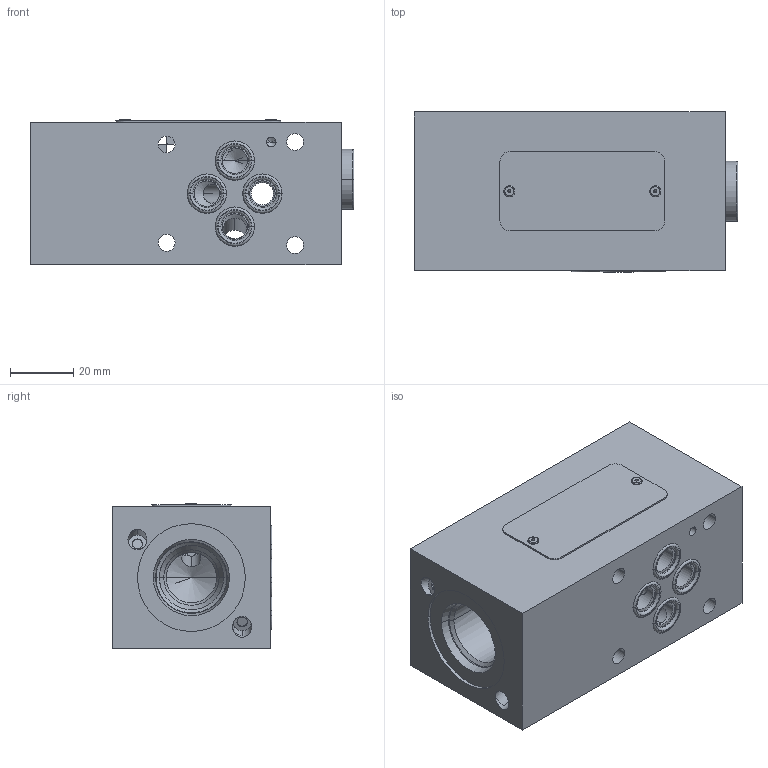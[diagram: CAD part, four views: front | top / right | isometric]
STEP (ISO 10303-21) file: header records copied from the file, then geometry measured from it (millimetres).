
FILE_DESCRIPTION((''),'2;1');
FILE_NAME('30786400_ASM','2023-10-12T',('l.soukupova'),(''),'PRO/ENGINEER BY PARAMETRIC TECHNOLOGY CORPORATION, 2015440','PRO/ENGINEER BY PARAMETRIC TECHNOLOGY CORPORATION, 2015440','');
FILE_SCHEMA(('AUTOMOTIVE_DESIGN { 1 0 10303 214 1 1 1 1 }'));
Length unit declared in the file: millimetre
Products named in the file (10): 30786501; VSTI_1_4_ED_156253; RD_LABEL_25X52_159703; ORAR00012_201524_AF28; ORAR00012_201524_AF29; ORAR00012_201524_AF30; ORAR00012_201524_AF31; AF_1932_16485; 1000288608; 30786400_ASM
Assembly tree (12 placements, depth 2):
  30786400_ASM
    30786501
    VSTI_1_4_ED_156253
    RD_LABEL_25X52_159703
    ORAR00012_201524_AF28
    ORAR00012_201524_AF29
    ORAR00012_201524_AF30
    ORAR00012_201524_AF31
    AF_1932_16485  x2
    1000288608  x3
Bounding box: 102 x 50.38 x 46 mm (x, y, z)
Volume: 190095.6 mm3; surface area: 44781.2 mm2
Topology: 12 solids, 17 shells, 523 faces, 1314 edges, 910 vertices
Faces by surface type: cone 247, cylinder 164, plane 70, torus 42
Entity records: 17875 total; most frequent: CARTESIAN_POINT 3029, DIRECTION 2149, ORIENTED_EDGE 1602, PRESENTATION_STYLE_ASSIGNMENT 1189, STYLED_ITEM 1026, CURVE_STYLE 1013, AXIS2_PLACEMENT_3D 872, EDGE_CURVE 811
